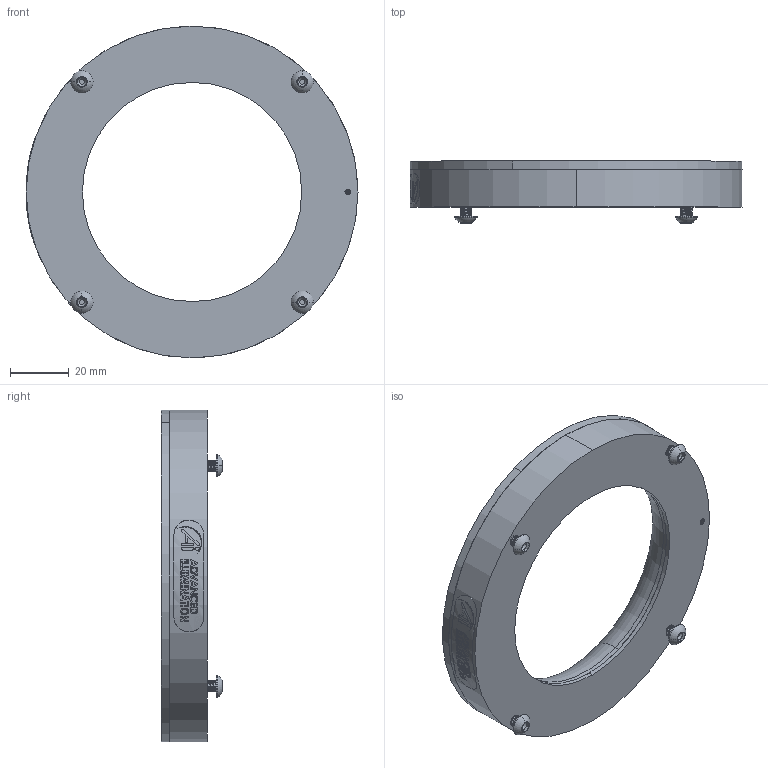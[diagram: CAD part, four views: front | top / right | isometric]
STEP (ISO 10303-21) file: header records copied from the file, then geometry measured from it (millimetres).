
FILE_DESCRIPTION (( 'STEP AP203' ), '1' );
FILE_NAME ('DF198-115.STEP', '2017-11-29T00:05:03', ( '' ), ( '' ), 'SwSTEP 2.0', 'SolidWorks 2017', '' );
FILE_SCHEMA (( 'CONFIG_CONTROL_DESIGN' ));
Products named in the file (1): DF198-115
Bounding box: 113.33 x 21.08 x 113.28 mm (x, y, z)
Volume: 58229.9 mm3; surface area: 38974.9 mm2
Topology: 12 solids, 12 shells, 823 faces, 2041 edges, 1280 vertices
Faces by surface type: cylinder 306, plane 254, cone 136, bspline 107, torus 20
Entity records: 42420 total; most frequent: CARTESIAN_POINT 24751, ORIENTED_EDGE 4058, DIRECTION 3158, EDGE_CURVE 2029, VERTEX_POINT 1280, AXIS2_PLACEMENT_3D 1220, EDGE_LOOP 899, FACE_OUTER_BOUND 823
